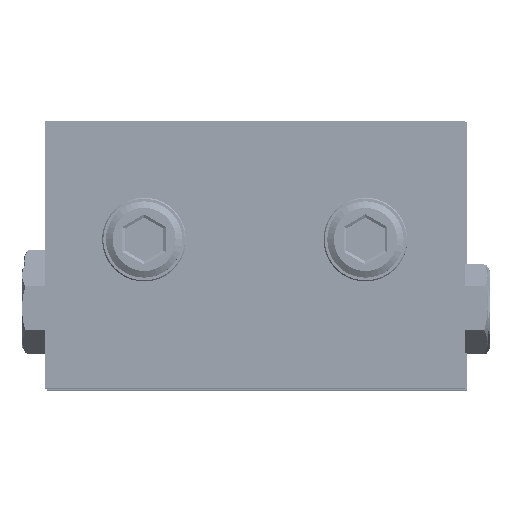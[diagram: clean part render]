
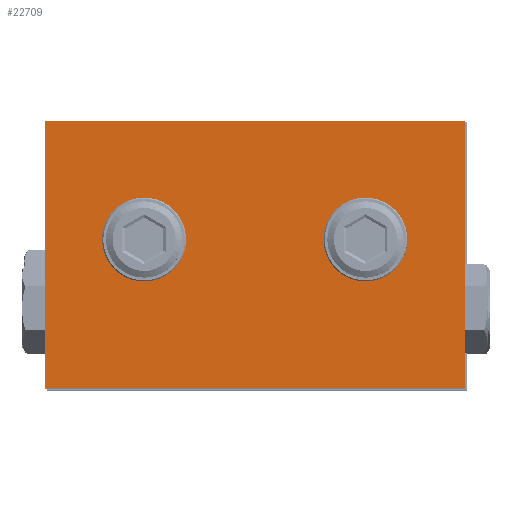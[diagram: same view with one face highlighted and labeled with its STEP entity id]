
A CAD part, top view. The second image highlights one B-rep face of the part: STEP entity #22709.
In plain terms, the highlighted planar face has unit normal (0, 0, 1) as drawn and (0, 0, -1) by its records, which use the part's own axes.
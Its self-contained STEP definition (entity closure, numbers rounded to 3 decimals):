
#683 = VERTEX_POINT ( 'NONE', #7708 ) ;
#2007 = AXIS2_PLACEMENT_3D ( 'NONE', #24140, #11918, #14813 ) ;
#2308 = CARTESIAN_POINT ( 'NONE',  ( -27.5, 0., -4.85 ) ) ;
#2418 = LINE ( 'NONE', #27800, #12493 ) ;
#3199 = AXIS2_PLACEMENT_3D ( 'NONE', #22825, #11490, #20521 ) ;
#3516 = DIRECTION ( 'NONE',  ( 0., 0., 1. ) ) ;
#3590 = CARTESIAN_POINT ( 'NONE',  ( 0., 0., -4.85 ) ) ;
#3750 = CARTESIAN_POINT ( 'NONE',  ( 27.5, 0., -4.85 ) ) ;
#3894 = LINE ( 'NONE', #3590, #30057 ) ;
#4111 = VERTEX_POINT ( 'NONE', #4686 ) ;
#4655 = VECTOR ( 'NONE', #16278, 1000. ) ;
#4686 = CARTESIAN_POINT ( 'NONE',  ( 11.4, -15.5, -4.85 ) ) ;
#4725 = DIRECTION ( 'NONE',  ( 0., -1., 0. ) ) ;
#4959 = EDGE_CURVE ( 'NONE', #22916, #19205, #4972, .T. ) ;
#4972 = LINE ( 'NONE', #8938, #4655 ) ;
#6199 = EDGE_LOOP ( 'NONE', ( #28365 ) ) ;
#7383 = CIRCLE ( 'NONE', #2007, 3.1 ) ;
#7708 = CARTESIAN_POINT ( 'NONE',  ( -27.5, -35., -4.85 ) ) ;
#7802 = FACE_BOUND ( 'NONE', #6199, .T. ) ;
#8095 = PLANE ( 'NONE',  #26171 ) ;
#8125 = ORIENTED_EDGE ( 'NONE', *, *, #22986, .F. ) ;
#8938 = CARTESIAN_POINT ( 'NONE',  ( 27.5, 0., -4.85 ) ) ;
#9636 = FACE_OUTER_BOUND ( 'NONE', #25509, .T. ) ;
#10091 = DIRECTION ( 'NONE',  ( 1., 0., 0. ) ) ;
#10359 = ORIENTED_EDGE ( 'NONE', *, *, #29438, .F. ) ;
#11490 = DIRECTION ( 'NONE',  ( 0., 0., -1. ) ) ;
#11918 = DIRECTION ( 'NONE',  ( 0., 0., -1. ) ) ;
#12072 = EDGE_CURVE ( 'NONE', #4111, #4111, #21273, .T. ) ;
#12493 = VECTOR ( 'NONE', #4725, 1000. ) ;
#13223 = DIRECTION ( 'NONE',  ( -1., 0., 0. ) ) ;
#13810 = ORIENTED_EDGE ( 'NONE', *, *, #4959, .F. ) ;
#14726 = VECTOR ( 'NONE', #18140, 1000. ) ;
#14813 = DIRECTION ( 'NONE',  ( 1., 0., 0. ) ) ;
#14993 = FACE_BOUND ( 'NONE', #25208, .T. ) ;
#15516 = CARTESIAN_POINT ( 'NONE',  ( 27.5, -35., -4.85 ) ) ;
#16278 = DIRECTION ( 'NONE',  ( 0., 1., 0. ) ) ;
#17562 = VERTEX_POINT ( 'NONE', #2308 ) ;
#18140 = DIRECTION ( 'NONE',  ( 1., 0., 0. ) ) ;
#19205 = VERTEX_POINT ( 'NONE', #3750 ) ;
#20521 = DIRECTION ( 'NONE',  ( -1., 0., 0. ) ) ;
#21273 = CIRCLE ( 'NONE', #3199, 3.1 ) ;
#22106 = EDGE_CURVE ( 'NONE', #17562, #683, #2418, .T. ) ;
#22603 = CARTESIAN_POINT ( 'NONE',  ( 0., -35., -4.85 ) ) ;
#22709 = ADVANCED_FACE ( 'NONE', ( #9636, #7802, #14993 ), #8095, .F. ) ;
#22825 = CARTESIAN_POINT ( 'NONE',  ( 14.5, -15.5, -4.85 ) ) ;
#22892 = LINE ( 'NONE', #22603, #14726 ) ;
#22916 = VERTEX_POINT ( 'NONE', #15516 ) ;
#22986 = EDGE_CURVE ( 'NONE', #19205, #17562, #3894, .T. ) ;
#22997 = VERTEX_POINT ( 'NONE', #30156 ) ;
#24140 = CARTESIAN_POINT ( 'NONE',  ( -14.5, -15.5, -4.85 ) ) ;
#24610 = CARTESIAN_POINT ( 'NONE',  ( 0., 0., -4.85 ) ) ;
#25208 = EDGE_LOOP ( 'NONE', ( #26755 ) ) ;
#25509 = EDGE_LOOP ( 'NONE', ( #28714, #8125, #13810, #10359 ) ) ;
#26171 = AXIS2_PLACEMENT_3D ( 'NONE', #24610, #3516, #10091 ) ;
#26755 = ORIENTED_EDGE ( 'NONE', *, *, #29024, .F. ) ;
#27800 = CARTESIAN_POINT ( 'NONE',  ( -27.5, 0., -4.85 ) ) ;
#28365 = ORIENTED_EDGE ( 'NONE', *, *, #12072, .F. ) ;
#28714 = ORIENTED_EDGE ( 'NONE', *, *, #22106, .F. ) ;
#29024 = EDGE_CURVE ( 'NONE', #22997, #22997, #7383, .T. ) ;
#29438 = EDGE_CURVE ( 'NONE', #683, #22916, #22892, .T. ) ;
#30057 = VECTOR ( 'NONE', #13223, 1000. ) ;
#30156 = CARTESIAN_POINT ( 'NONE',  ( -11.4, -15.5, -4.85 ) ) ;
